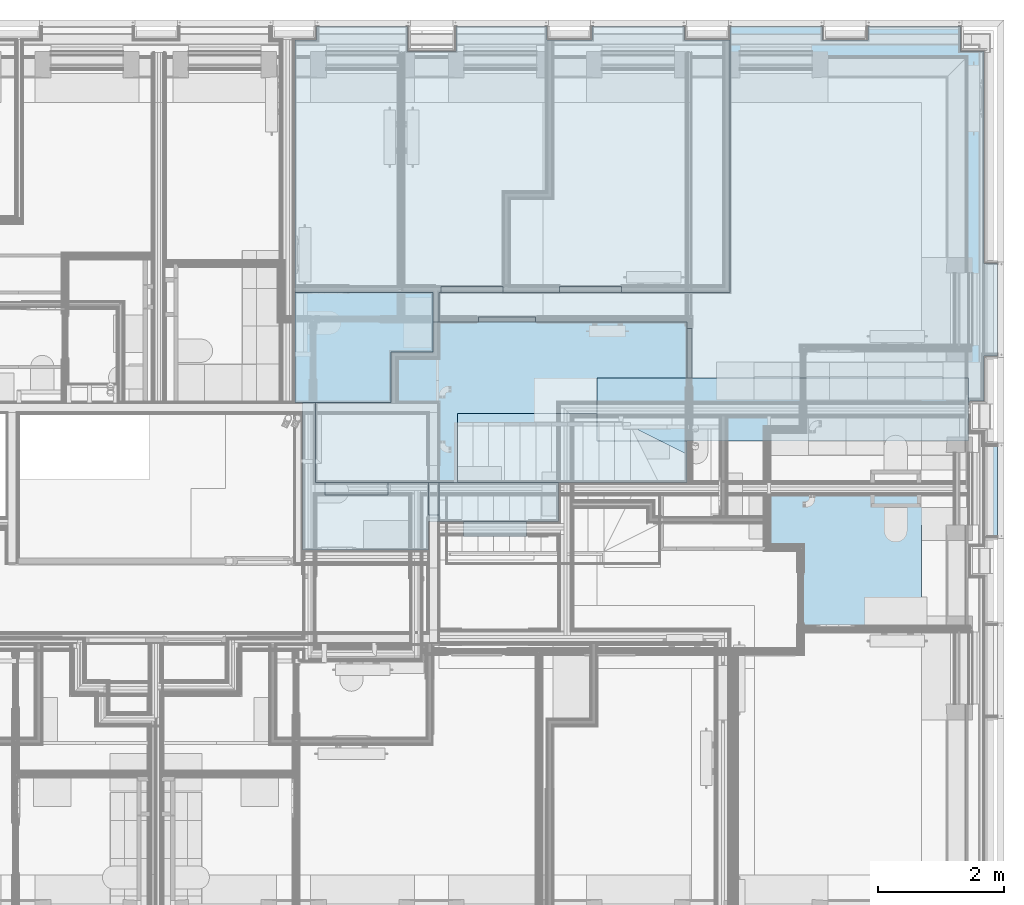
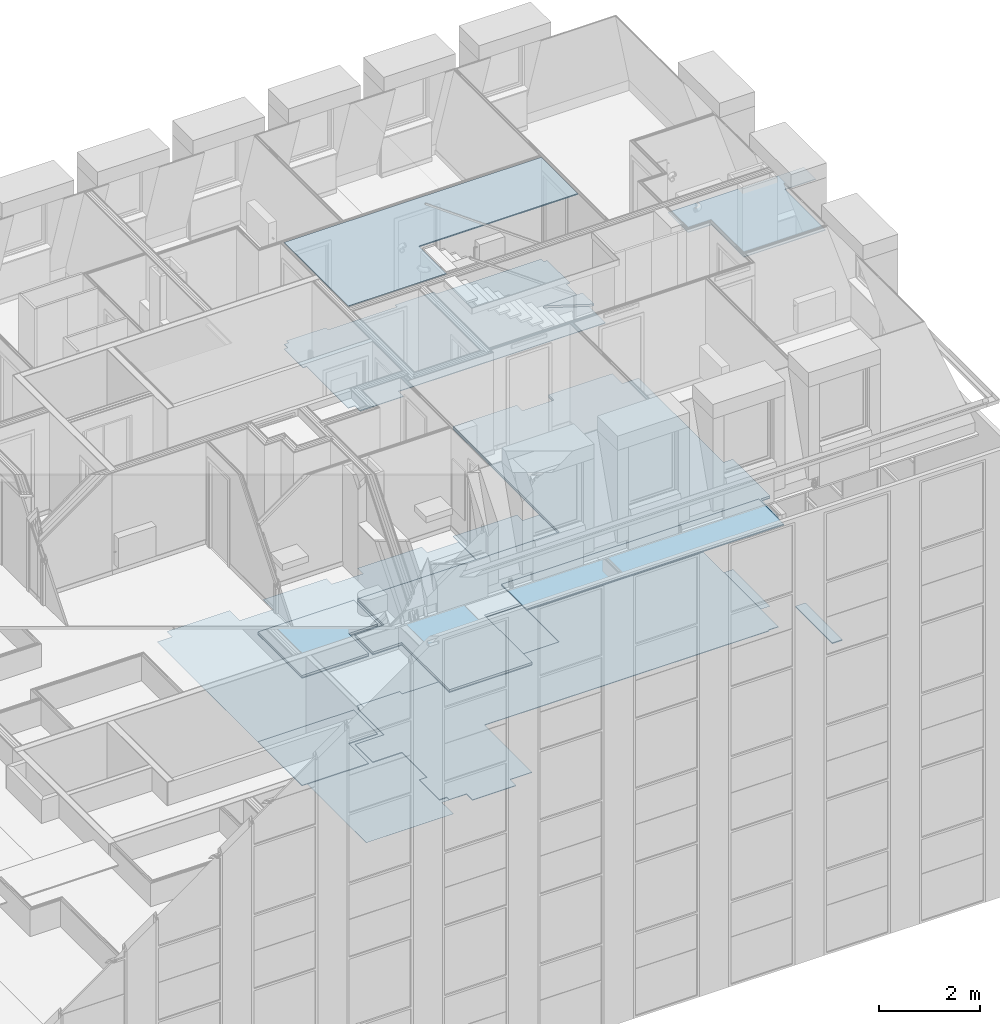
# One storey, part 79 of 169: 16 slabs.
"""IFC2X3 building model written with IfcOpenShell, lengths in metres."""

from ifc_helpers import new_model, entity, si_unit, converted_unit, derived_unit, money_unit, direction, frame, origin_with_axes, place, context, subcontext, project, spatial, faceted_brep, material, type_object, element, save


model = new_model("IFC2X3")

# Units and contexts
model_context = context("Model", 3, precision=1e-05, world=origin_with_axes(), true_north=direction((0.0, 1.0)))
body_context = subcontext(model_context, "Body", "Model", "MODEL_VIEW", scale=1.0)
ifc_project = project(units=[si_unit("LENGTHUNIT", "METRE"), si_unit("AREAUNIT", "SQUARE_METRE"), si_unit("VOLUMEUNIT", "CUBIC_METRE"), si_unit("ABSORBEDDOSEUNIT", "GRAY"), si_unit("AMOUNTOFSUBSTANCEUNIT", "MOLE"), si_unit("DOSEEQUIVALENTUNIT", "SIEVERT"), si_unit("ELECTRICCAPACITANCEUNIT", "FARAD"), si_unit("ELECTRICCHARGEUNIT", "COULOMB"), si_unit("ELECTRICCONDUCTANCEUNIT", "SIEMENS"), si_unit("ELECTRICCURRENTUNIT", "AMPERE"), si_unit("ELECTRICRESISTANCEUNIT", "OHM"), si_unit("ELECTRICVOLTAGEUNIT", "VOLT"), si_unit("ENERGYUNIT", "JOULE"), si_unit("FORCEUNIT", "NEWTON"), si_unit("FREQUENCYUNIT", "HERTZ"), si_unit("ILLUMINANCEUNIT", "LUX"), si_unit("INDUCTANCEUNIT", "HENRY"), si_unit("LUMINOUSFLUXUNIT", "LUMEN"), si_unit("LUMINOUSINTENSITYUNIT", "CANDELA"), si_unit("MAGNETICFLUXDENSITYUNIT", "TESLA"), si_unit("MAGNETICFLUXUNIT", "WEBER"), si_unit("MASSUNIT", "GRAM"), converted_unit("PLANEANGLEUNIT", "degree", entity("IfcReal", 0.0174532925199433), si_unit("PLANEANGLEUNIT", "RADIAN"), dimensions=[0, 0, 0, 0, 0, 0, 0]), si_unit("POWERUNIT", "WATT"), si_unit("PRESSUREUNIT", "PASCAL"), si_unit("RADIOACTIVITYUNIT", "BECQUEREL"), si_unit("SOLIDANGLEUNIT", "STERADIAN"), si_unit("THERMODYNAMICTEMPERATUREUNIT", "KELVIN"), si_unit("TIMEUNIT", "SECOND"), derived_unit("ACCELERATIONUNIT", [(si_unit("LENGTHUNIT", "METRE"), 1), (si_unit("TIMEUNIT", "SECOND"), -2)]), derived_unit("ANGULARVELOCITYUNIT", [(converted_unit("PLANEANGLEUNIT", "degree", entity("IfcReal", 0.0174532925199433), si_unit("PLANEANGLEUNIT", "RADIAN"), dimensions=[0, 0, 0, 0, 0, 0, 0]), 1), (si_unit("TIMEUNIT", "SECOND"), -1)]), derived_unit("CURVATUREUNIT", [(converted_unit("PLANEANGLEUNIT", "degree", entity("IfcReal", 0.0174532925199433), si_unit("PLANEANGLEUNIT", "RADIAN"), dimensions=[0, 0, 0, 0, 0, 0, 0]), 1), (si_unit("LENGTHUNIT", "METRE"), -1)]), derived_unit("DYNAMICVISCOSITYUNIT", [(si_unit("PRESSUREUNIT", "PASCAL"), 1), (si_unit("TIMEUNIT", "SECOND"), 1)]), derived_unit("HEATFLUXDENSITYUNIT", [(si_unit("POWERUNIT", "WATT"), 1), (si_unit("LENGTHUNIT", "METRE"), -2)]), derived_unit("HEATINGVALUEUNIT", [(si_unit("ENERGYUNIT", "JOULE"), 1), (si_unit("MASSUNIT", "GRAM"), -1)]), derived_unit("INTEGERCOUNTRATEUNIT", [(si_unit("TIMEUNIT", "SECOND"), -1)]), derived_unit("IONCONCENTRATIONUNIT", [(si_unit("MASSUNIT", "GRAM"), 1), (si_unit("VOLUMEUNIT", "CUBIC_METRE"), -1)]), derived_unit("ISOTHERMALMOISTURECAPACITYUNIT", [(si_unit("VOLUMEUNIT", "CUBIC_METRE"), 1), (si_unit("MASSUNIT", "GRAM"), -1)]), derived_unit("KINEMATICVISCOSITYUNIT", [(si_unit("AREAUNIT", "SQUARE_METRE"), 1), (si_unit("TIMEUNIT", "SECOND"), -1)]), derived_unit("LINEARFORCEUNIT", [(si_unit("FORCEUNIT", "NEWTON"), 1), (si_unit("LENGTHUNIT", "METRE"), -1)]), derived_unit("LINEARMOMENTUNIT", [(si_unit("FORCEUNIT", "NEWTON"), 1), (si_unit("LENGTHUNIT", "METRE"), -1)]), derived_unit("LINEARSTIFFNESSUNIT", [(si_unit("FORCEUNIT", "NEWTON"), 1), (si_unit("LENGTHUNIT", "METRE"), -1)]), derived_unit("LINEARVELOCITYUNIT", [(si_unit("LENGTHUNIT", "METRE"), 1), (si_unit("TIMEUNIT", "SECOND"), -1)]), derived_unit("LUMINOUSINTENSITYDISTRIBUTIONUNIT", [(si_unit("LUMINOUSINTENSITYUNIT", "CANDELA"), 1), (si_unit("LUMINOUSFLUXUNIT", "LUMEN"), -1)]), derived_unit("MASSDENSITYUNIT", [(si_unit("MASSUNIT", "GRAM"), 1), (si_unit("VOLUMEUNIT", "CUBIC_METRE"), -1)]), derived_unit("MASSFLOWRATEUNIT", [(si_unit("MASSUNIT", "GRAM"), 1), (si_unit("TIMEUNIT", "SECOND"), -1)]), derived_unit("MASSPERLENGTHUNIT", [(si_unit("MASSUNIT", "GRAM"), 1), (si_unit("LENGTHUNIT", "METRE"), -1)]), derived_unit("MODULUSOFELASTICITYUNIT", [(si_unit("FORCEUNIT", "NEWTON"), 1), (si_unit("AREAUNIT", "SQUARE_METRE"), -1)]), derived_unit("MODULUSOFLINEARSUBGRADEREACTIONUNIT", [(si_unit("FORCEUNIT", "NEWTON"), 1), (si_unit("LENGTHUNIT", "METRE"), -2)]), derived_unit("MODULUSOFROTATIONALSUBGRADEREACTIONUNIT", [(si_unit("FORCEUNIT", "NEWTON"), 1), (si_unit("LENGTHUNIT", "METRE"), 1)]), derived_unit("MODULUSOFSUBGRADEREACTIONUNIT", [(si_unit("FORCEUNIT", "NEWTON"), 1), (si_unit("VOLUMEUNIT", "CUBIC_METRE"), -1)]), derived_unit("MOISTUREDIFFUSIVITYUNIT", [(si_unit("VOLUMEUNIT", "CUBIC_METRE"), 1), (si_unit("TIMEUNIT", "SECOND"), -1)]), derived_unit("MOLECULARWEIGHTUNIT", [(si_unit("MASSUNIT", "GRAM"), 1), (si_unit("AMOUNTOFSUBSTANCEUNIT", "MOLE"), -1)]), derived_unit("PLANARFORCEUNIT", [(si_unit("FORCEUNIT", "NEWTON"), 1), (si_unit("LENGTHUNIT", "METRE"), -2)]), derived_unit("ROTATIONALFREQUENCYUNIT", [(si_unit("TIMEUNIT", "SECOND"), -1)]), derived_unit("ROTATIONALMASSUNIT", [(si_unit("MASSUNIT", "GRAM"), 1), (si_unit("LENGTHUNIT", "METRE"), 2)]), derived_unit("ROTATIONALSTIFFNESSUNIT", [(si_unit("FORCEUNIT", "NEWTON"), 1), (si_unit("LENGTHUNIT", "METRE"), 1), (converted_unit("PLANEANGLEUNIT", "degree", entity("IfcReal", 0.0174532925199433), si_unit("PLANEANGLEUNIT", "RADIAN"), dimensions=[0, 0, 0, 0, 0, 0, 0]), -1)]), derived_unit("SECTIONAREAINTEGRALUNIT", [(si_unit("LENGTHUNIT", "METRE"), 5)]), derived_unit("SECTIONMODULUSUNIT", [(si_unit("LENGTHUNIT", "METRE"), 3)]), derived_unit("SHEARMODULUSUNIT", [(si_unit("FORCEUNIT", "NEWTON"), 1), (si_unit("AREAUNIT", "SQUARE_METRE"), -1)]), derived_unit("SOUNDPOWERUNIT", [(si_unit("ENERGYUNIT", "JOULE"), 1), (si_unit("TIMEUNIT", "SECOND"), -1)]), derived_unit("SPECIFICHEATCAPACITYUNIT", [(si_unit("FORCEUNIT", "NEWTON"), 1), (si_unit("MASSUNIT", "GRAM"), -1), (si_unit("THERMODYNAMICTEMPERATUREUNIT", "KELVIN"), -1)]), derived_unit("TEMPERATUREGRADIENTUNIT", [(si_unit("THERMODYNAMICTEMPERATUREUNIT", "KELVIN"), 1), (si_unit("LENGTHUNIT", "METRE"), -1)]), derived_unit("THERMALADMITTANCEUNIT", [(si_unit("POWERUNIT", "WATT"), 1), (si_unit("AREAUNIT", "SQUARE_METRE"), -1), (si_unit("THERMODYNAMICTEMPERATUREUNIT", "KELVIN"), -1)]), derived_unit("THERMALCONDUCTANCEUNIT", [(si_unit("POWERUNIT", "WATT"), 1), (si_unit("LENGTHUNIT", "METRE"), -1), (si_unit("THERMODYNAMICTEMPERATUREUNIT", "KELVIN"), -1)]), derived_unit("THERMALEXPANSIONCOEFFICIENTUNIT", [(si_unit("THERMODYNAMICTEMPERATUREUNIT", "KELVIN"), -1)]), derived_unit("THERMALRESISTANCEUNIT", [(si_unit("AREAUNIT", "SQUARE_METRE"), 1), (si_unit("POWERUNIT", "WATT"), -1)]), derived_unit("THERMALTRANSMITTANCEUNIT", [(si_unit("POWERUNIT", "WATT"), 1), (si_unit("AREAUNIT", "SQUARE_METRE"), -1), (si_unit("THERMODYNAMICTEMPERATUREUNIT", "KELVIN"), -1)]), derived_unit("TORQUEUNIT", [(si_unit("FORCEUNIT", "NEWTON"), 1), (si_unit("LENGTHUNIT", "METRE"), 1)]), derived_unit("VAPORPERMEABILITYUNIT", [(si_unit("MASSUNIT", "GRAM"), 1), (si_unit("TIMEUNIT", "SECOND"), -1)]), derived_unit("VOLUMETRICFLOWRATEUNIT", [(si_unit("VOLUMEUNIT", "CUBIC_METRE"), 1), (si_unit("TIMEUNIT", "SECOND"), -1)]), derived_unit("WARPINGCONSTANTUNIT", [(si_unit("LENGTHUNIT", "METRE"), 6)]), derived_unit("WARPINGMOMENTUNIT", [(si_unit("FORCEUNIT", "NEWTON"), 1), (si_unit("LENGTHUNIT", "METRE"), 2)]), money_unit("GBP")], contexts=[model_context])

# Site, building, storey
site_placement = place(None, origin_with_axes())
site = spatial("IfcSite", under=ifc_project, at=site_placement, Name="Site", CompositionType="ELEMENT")
building_placement = place(site_placement, origin_with_axes())
building = spatial("IfcBuilding", under=site, at=building_placement, Name="Building01", CompositionType="ELEMENT")
storey_placement = place(building_placement, frame((0.0, 0.0, 5.15), z_axis=(0.0, 0.0, 1.0), x_axis=(1.0, 0.0, 0.0)))
storey = spatial("IfcBuildingStorey", under=building, at=storey_placement, Name="1F", CompositionType="ELEMENT", Elevation=5.15)

# Slabs
ifc_material_1 = material(Name="A_BSUK_ExpandedPolystyreneBoards")
slab_type_1 = type_object("IfcSlabType", Name="A-FloorsSlabs A_BSUK_Slabs", PredefinedType="FLOOR")
placement = place(storey_placement, frame((0.0, 0.0, -5.15), z_axis=(0.0, 0.0, 1.0), x_axis=(1.0, 0.0, 0.0)))
element("IfcSlab", 1, at=placement, inside=storey, type_object=slab_type_1, material=ifc_material_1, Name="A-FloorsSlabs A_BSUK_Slabs", ObjectType="CompoundSlabLeaf", context=body_context, shape_type="Brep", body=[
    faceted_brep([(15.83, 8.82, 5.15), (15.83, 8.82, 5.153), (15.708132, 8.82, 5.153), (15.708132, 8.82, 5.15), (15.83, 8.65, 5.15), (15.83, 8.65, 5.153), (15.83, 6.475, 5.15), (15.83, 6.475, 5.153), (17.83, 6.475, 5.15), (17.83, 6.475, 5.153), (17.83, 6.93, 5.15), (17.83, 6.93, 5.153), (18.0, 6.93, 5.15), (18.0, 6.93, 5.153), (18.392, 6.93, 5.15), (18.392, 6.93, 5.153), (18.392, 6.69, 5.15), (18.392, 6.69, 5.153), (19.392, 6.69, 5.15), (19.392, 6.69, 5.153), (19.392, 6.93, 5.15), (19.392, 6.93, 5.153), (19.897661, 6.93, 5.15), (19.897661, 6.93, 5.153), (19.897661, 8.82, 5.15), (19.897661, 8.82, 5.153), (26.432, 8.82, 5.15), (26.432, 8.82, 5.153), (26.432, 8.848, 5.15), (26.432, 8.848, 5.153), (26.662, 8.848, 5.15), (26.662, 8.848, 5.153), (26.662, 9.56218, 5.15), (26.662, 9.56218, 5.153), (26.88, 9.56218, 5.15), (26.88, 9.56218, 5.153), (26.88, 11.03218, 5.15), (26.88, 11.03218, 5.153), (26.662, 11.03218, 5.15), (26.662, 11.03218, 5.153), (26.662, 14.402, 5.15), (26.662, 14.402, 5.153), (26.285, 14.402, 5.15), (26.285, 14.402, 5.153), (26.285, 14.8, 5.15), (26.285, 14.8, 5.153), (24.815, 14.8, 5.15), (24.815, 14.8, 5.153), (24.815, 14.582, 5.15), (24.815, 14.582, 5.153), (24.095, 14.582, 5.15), (24.095, 14.582, 5.153), (24.095, 14.8, 5.15), (24.095, 14.8, 5.153), (22.625, 14.8, 5.15), (22.625, 14.8, 5.153), (22.625, 14.582, 5.15), (22.625, 14.582, 5.153), (21.905, 14.582, 5.15), (21.905, 14.582, 5.153), (21.905, 14.8, 5.15), (21.905, 14.8, 5.153), (20.435, 14.8, 5.15), (20.435, 14.8, 5.153), (20.435, 14.582, 5.15), (20.435, 14.582, 5.153), (19.715, 14.582, 5.15), (19.715, 14.582, 5.153), (19.715, 14.8, 5.15), (19.715, 14.8, 5.153), (18.268, 14.8, 5.15), (18.268, 14.8, 5.153), (18.268, 14.402, 5.15), (18.268, 14.402, 5.153), (17.502, 14.402, 5.15), (17.502, 14.402, 5.153), (17.502, 14.8, 5.15), (17.502, 14.8, 5.153), (16.055, 14.8, 5.15), (16.055, 14.8, 5.153), (16.055, 14.582, 5.15), (16.055, 14.582, 5.153), (15.708132, 14.582, 5.15), (15.708132, 14.582, 5.153)], [[[0, 1, 2, 3]], [[4, 5, 1, 0]], [[6, 7, 5, 4]], [[8, 9, 7, 6]], [[10, 11, 9, 8]], [[12, 13, 11, 10]], [[14, 15, 13, 12]], [[16, 17, 15, 14]], [[18, 19, 17, 16]], [[20, 21, 19, 18]], [[22, 23, 21, 20]], [[24, 25, 23, 22]], [[26, 27, 25, 24]], [[28, 29, 27, 26]], [[30, 31, 29, 28]], [[32, 33, 31, 30]], [[34, 35, 33, 32]], [[36, 37, 35, 34]], [[38, 39, 37, 36]], [[40, 41, 39, 38]], [[42, 43, 41, 40]], [[44, 45, 43, 42]], [[46, 47, 45, 44]], [[48, 49, 47, 46]], [[50, 51, 49, 48]], [[52, 53, 51, 50]], [[54, 55, 53, 52]], [[56, 57, 55, 54]], [[58, 59, 57, 56]], [[60, 61, 59, 58]], [[62, 63, 61, 60]], [[64, 65, 63, 62]], [[66, 67, 65, 64]], [[68, 69, 67, 66]], [[70, 71, 69, 68]], [[72, 73, 71, 70]], [[74, 75, 73, 72]], [[76, 77, 75, 74]], [[78, 79, 77, 76]], [[80, 81, 79, 78]], [[82, 83, 81, 80]], [[3, 2, 83, 82]], [[1, 5, 7, 9, 11, 13, 15, 17, 19, 21, 23, 25, 27, 29, 31, 33, 35, 37, 39, 41, 43, 45, 47, 49, 51, 53, 55, 57, 59, 61, 63, 65, 67, 69, 71, 73, 75, 77, 79, 81, 83, 2]], [[3, 82, 80, 78, 76, 74, 72, 70, 68, 66, 64, 62, 60, 58, 56, 54, 52, 50, 48, 46, 44, 42, 40, 38, 36, 34, 32, 30, 28, 26, 24, 22, 20, 18, 16, 14, 12, 10, 8, 6, 4, 0]]]),
])
ifc_material_2 = material(Name="A_BSUK_Parquet_Floor")
element("IfcSlab", 2, at=placement, inside=storey, type_object=slab_type_1, material=ifc_material_2, Name="A-FloorsSlabs A_BSUK_Slabs", ObjectType="CompoundSlabLeaf", context=body_context, shape_type="Brep", body=[
    faceted_brep([(18.392, 6.69, 5.153), (18.392, 6.69, 5.165), (18.392, 6.93, 5.165), (18.392, 6.93, 5.153), (19.392, 6.69, 5.153), (19.392, 6.69, 5.165), (19.392, 6.93, 5.153), (19.392, 6.93, 5.165), (19.897661, 6.93, 5.153), (19.897661, 6.93, 5.165), (19.897661, 8.82, 5.153), (19.897661, 8.82, 5.165), (26.432, 8.82, 5.153), (26.432, 8.82, 5.165), (26.432, 8.848, 5.153), (26.432, 8.848, 5.165), (26.662, 8.848, 5.153), (26.662, 8.848, 5.165), (26.662, 9.56218, 5.153), (26.662, 9.56218, 5.165), (26.662, 11.03218, 5.153), (26.662, 11.03218, 5.165), (26.662, 14.402, 5.153), (26.662, 14.402, 5.165), (26.285, 14.402, 5.153), (26.285, 14.402, 5.165), (26.285, 14.8, 5.153), (26.285, 14.8, 5.165), (24.815, 14.8, 5.153), (24.815, 14.8, 5.165), (24.815, 14.582, 5.153), (24.815, 14.582, 5.165), (24.095, 14.582, 5.153), (24.095, 14.582, 5.165), (24.095, 14.8, 5.153), (24.095, 14.8, 5.165), (22.625, 14.8, 5.153), (22.625, 14.8, 5.165), (22.625, 10.57, 5.153), (22.625, 10.57, 5.165), (20.902284, 10.57, 5.153), (20.902284, 10.57, 5.165), (20.902284, 10.665, 5.153), (20.902284, 10.665, 5.165), (19.918284, 10.665, 5.153), (19.918284, 10.665, 5.165), (19.918284, 10.57, 5.153), (19.918284, 10.57, 5.165), (19.017398, 10.57, 5.153), (19.017398, 10.57, 5.165), (19.017398, 10.665, 5.153), (19.017398, 10.665, 5.165), (18.033398, 10.665, 5.153), (18.033398, 10.665, 5.165), (18.033398, 10.57, 5.153), (18.033398, 10.57, 5.165), (18.0, 10.57, 5.153), (18.0, 10.57, 5.165), (18.0, 9.967396, 5.153), (18.0, 9.967396, 5.165), (18.0, 9.525, 5.153), (18.0, 9.525, 5.165), (17.333132, 9.525, 5.153), (17.333132, 9.525, 5.165), (17.333132, 8.82, 5.153), (17.333132, 8.82, 5.165), (17.905, 8.82, 5.153), (17.905, 8.82, 5.165), (18.0, 8.82, 5.153), (18.0, 8.82, 5.165), (18.0, 7.82088, 5.153), (18.0, 7.82088, 5.165), (17.83, 7.82088, 5.153), (17.83, 7.82088, 5.165), (17.83, 7.02888, 5.153), (17.83, 7.02888, 5.165), (18.0, 7.02888, 5.153), (18.0, 7.02888, 5.165), (18.0, 6.93, 5.153), (18.0, 6.93, 5.165)], [[[0, 1, 2, 3]], [[4, 5, 1, 0]], [[6, 7, 5, 4]], [[8, 9, 7, 6]], [[10, 11, 9, 8]], [[12, 13, 11, 10]], [[14, 15, 13, 12]], [[16, 17, 15, 14]], [[18, 19, 17, 16]], [[20, 21, 19, 18]], [[22, 23, 21, 20]], [[24, 25, 23, 22]], [[26, 27, 25, 24]], [[28, 29, 27, 26]], [[30, 31, 29, 28]], [[32, 33, 31, 30]], [[34, 35, 33, 32]], [[36, 37, 35, 34]], [[38, 39, 37, 36]], [[40, 41, 39, 38]], [[42, 43, 41, 40]], [[44, 45, 43, 42]], [[46, 47, 45, 44]], [[48, 49, 47, 46]], [[50, 51, 49, 48]], [[52, 53, 51, 50]], [[54, 55, 53, 52]], [[56, 57, 55, 54]], [[58, 59, 57, 56]], [[60, 61, 59, 58]], [[62, 63, 61, 60]], [[64, 65, 63, 62]], [[66, 67, 65, 64]], [[68, 69, 67, 66]], [[70, 71, 69, 68]], [[72, 73, 71, 70]], [[74, 75, 73, 72]], [[76, 77, 75, 74]], [[78, 79, 77, 76]], [[3, 2, 79, 78]], [[1, 5, 7, 9, 11, 13, 15, 17, 19, 21, 23, 25, 27, 29, 31, 33, 35, 37, 39, 41, 43, 45, 47, 49, 51, 53, 55, 57, 59, 61, 63, 65, 67, 69, 71, 73, 75, 77, 79, 2]], [[3, 78, 76, 74, 72, 70, 68, 66, 64, 62, 60, 58, 56, 54, 52, 50, 48, 46, 44, 42, 40, 38, 36, 34, 32, 30, 28, 26, 24, 22, 20, 18, 16, 14, 12, 10, 8, 6, 4, 0]]]),
])
ifc_material_3 = material(Name="A_BSUK_CeilingSoffitFinishes_Suspended")
element("IfcSlab", 3, at=placement, inside=storey, type_object=slab_type_1, material=ifc_material_3, Name="A-FloorsSlabs A_BSUK_Slabs", ObjectType="CompoundSlabLeaf", context=body_context, shape_type="Brep", body=[
    faceted_brep([(18.395, 6.93, 7.765), (18.395, 6.93, 7.78), (18.0, 6.93, 7.78), (18.0, 6.93, 7.765), (19.395, 6.93, 7.765), (19.395, 6.93, 7.78), (19.897661, 6.93, 7.765), (19.897661, 6.93, 7.78), (19.897661, 8.82, 7.765), (19.897661, 8.82, 7.78), (26.432, 8.82, 7.765), (26.432, 8.82, 7.78), (26.432, 8.848, 7.765), (26.432, 8.848, 7.78), (26.662, 8.848, 7.765), (26.662, 8.848, 7.78), (26.662, 9.56218, 7.765), (26.662, 9.56218, 7.78), (26.88, 9.56218, 7.765), (26.88, 9.56218, 7.78), (26.88, 11.03218, 7.765), (26.88, 11.03218, 7.78), (26.662, 11.03218, 7.765), (26.662, 11.03218, 7.78), (26.662, 14.402, 7.765), (26.662, 14.402, 7.78), (26.285, 14.402, 7.765), (26.285, 14.402, 7.78), (26.285, 14.8, 7.765), (26.285, 14.8, 7.78), (24.815, 14.8, 7.765), (24.815, 14.8, 7.78), (24.815, 14.582, 7.765), (24.815, 14.582, 7.78), (24.095, 14.582, 7.765), (24.095, 14.582, 7.78), (24.095, 14.8, 7.765), (24.095, 14.8, 7.78), (22.625, 14.8, 7.765), (22.625, 14.8, 7.78), (22.625, 10.57, 7.765), (22.625, 10.57, 7.78), (19.891284, 10.57, 7.765), (19.891284, 10.57, 7.78), (19.044398, 10.57, 7.765), (19.044398, 10.57, 7.78), (18.0, 10.57, 7.765), (18.0, 10.57, 7.78), (18.0, 9.525, 7.765), (18.0, 9.525, 7.78), (17.333132, 9.525, 7.765), (17.333132, 9.525, 7.78), (17.333132, 8.82, 7.765), (17.333132, 8.82, 7.78), (18.0, 8.82, 7.765), (18.0, 8.82, 7.78), (18.0, 7.82088, 7.765), (18.0, 7.82088, 7.78), (18.0, 7.02888, 7.765), (18.0, 7.02888, 7.78)], [[[0, 1, 2, 3]], [[4, 5, 1, 0]], [[6, 7, 5, 4]], [[8, 9, 7, 6]], [[10, 11, 9, 8]], [[12, 13, 11, 10]], [[14, 15, 13, 12]], [[16, 17, 15, 14]], [[18, 19, 17, 16]], [[20, 21, 19, 18]], [[22, 23, 21, 20]], [[24, 25, 23, 22]], [[26, 27, 25, 24]], [[28, 29, 27, 26]], [[30, 31, 29, 28]], [[32, 33, 31, 30]], [[34, 35, 33, 32]], [[36, 37, 35, 34]], [[38, 39, 37, 36]], [[40, 41, 39, 38]], [[42, 43, 41, 40]], [[44, 45, 43, 42]], [[46, 47, 45, 44]], [[48, 49, 47, 46]], [[50, 51, 49, 48]], [[52, 53, 51, 50]], [[54, 55, 53, 52]], [[56, 57, 55, 54]], [[58, 59, 57, 56]], [[3, 2, 59, 58]], [[1, 5, 7, 9, 11, 13, 15, 17, 19, 21, 23, 25, 27, 29, 31, 33, 35, 37, 39, 41, 43, 45, 47, 49, 51, 53, 55, 57, 59, 2]], [[3, 58, 56, 54, 52, 50, 48, 46, 44, 42, 40, 38, 36, 34, 32, 30, 28, 26, 24, 22, 20, 18, 16, 14, 12, 10, 8, 6, 4, 0]]]),
])
element("IfcSlab", 4, at=placement, inside=storey, type_object=slab_type_1, material=ifc_material_3, Name="A-FloorsSlabs A_BSUK_Slabs", ObjectType="CompoundSlabLeaf", context=body_context, shape_type="Brep", body=[
    faceted_brep([(15.708132, 10.57, 7.765), (15.708132, 10.57, 7.78), (17.905, 10.57, 7.78), (17.905, 10.57, 7.765), (15.708132, 8.82, 7.765), (15.708132, 8.82, 7.78), (17.238132, 8.82, 7.765), (17.238132, 8.82, 7.78), (17.238132, 9.62, 7.765), (17.238132, 9.62, 7.78), (17.905, 9.62, 7.765), (17.905, 9.62, 7.78)], [[[0, 1, 2, 3]], [[4, 5, 1, 0]], [[6, 7, 5, 4]], [[8, 9, 7, 6]], [[10, 11, 9, 8]], [[3, 2, 11, 10]], [[1, 5, 7, 9, 11, 2]], [[3, 10, 8, 6, 4, 0]]]),
])
ifc_material_4 = material(Name="A_BSUK_Ceramic_FloorTiles")
element("IfcSlab", 5, at=placement, inside=storey, type_object=slab_type_1, material=ifc_material_4, Name="A-FloorsSlabs A_BSUK_Slabs", ObjectType="CompoundSlabLeaf", context=body_context, shape_type="Brep", body=[
    faceted_brep([(15.708132, 8.82, 5.153), (15.708132, 8.82, 5.165), (15.708132, 10.57, 5.165), (15.708132, 10.57, 5.153), (17.238132, 8.82, 5.153), (17.238132, 8.82, 5.165), (17.238132, 9.62, 5.153), (17.238132, 9.62, 5.165), (17.905, 9.62, 5.153), (17.905, 9.62, 5.165), (17.905, 10.57, 5.153), (17.905, 10.57, 5.165)], [[[0, 1, 2, 3]], [[4, 5, 1, 0]], [[6, 7, 5, 4]], [[8, 9, 7, 6]], [[10, 11, 9, 8]], [[3, 2, 11, 10]], [[1, 5, 7, 9, 11, 2]], [[3, 10, 8, 6, 4, 0]]]),
])
ifc_material_5 = material(Name="A_BSUK_Timber_Miscellaneous")
element("IfcSlab", 6, at=placement, inside=storey, type_object=slab_type_1, material=ifc_material_5, Name="A-FloorsSlabs A_BSUK_Slabs", ObjectType="CompoundSlabLeaf", context=body_context, shape_type="Brep", body=[
    faceted_brep([(26.88, 6.682326, 6.065), (26.88, 6.682326, 6.09), (26.646998, 6.682326, 6.09), (26.646998, 6.682326, 6.065), (26.88, 8.152326, 6.065), (26.88, 8.152326, 6.09), (26.647, 8.152326, 6.065), (26.647, 8.152326, 6.09)], [[[0, 1, 2, 3]], [[4, 5, 1, 0]], [[6, 7, 5, 4]], [[3, 2, 7, 6]], [[1, 5, 7, 2]], [[3, 6, 4, 0]]]),
])
element("IfcSlab", 7, at=placement, inside=storey, type_object=slab_type_1, material=ifc_material_3, Name="A-FloorsSlabs A_BSUK_Slabs", ObjectType="CompoundSlabLeaf", context=body_context, shape_type="Brep", body=[
    faceted_brep([(20.510161, 8.2075, 8.115), (20.510161, 8.2075, 8.13), (20.510161, 9.2075, 8.13), (20.510161, 9.2075, 8.115), (26.417, 8.2075, 8.115), (26.417, 8.2075, 8.13), (26.417, 9.2075, 8.115), (26.417, 9.2075, 8.13)], [[[0, 1, 2, 3]], [[4, 5, 1, 0]], [[6, 7, 5, 4]], [[3, 2, 7, 6]], [[1, 5, 7, 2]], [[3, 6, 4, 0]]]),
])
element("IfcSlab", 8, at=placement, inside=storey, type_object=slab_type_1, material=ifc_material_3, Name="A-FloorsSlabs A_BSUK_Slabs", ObjectType="CompoundSlabLeaf", context=body_context, shape_type="Brep", body=[
    faceted_brep([(20.510161, 8.2075, 8.1), (20.510161, 8.2075, 8.115), (20.510161, 9.2075, 8.115), (20.510161, 9.2075, 8.1), (26.417, 8.2075, 8.1), (26.417, 8.2075, 8.115), (26.417, 9.2075, 8.1), (26.417, 9.2075, 8.115)], [[[0, 1, 2, 3]], [[4, 5, 1, 0]], [[6, 7, 5, 4]], [[3, 2, 7, 6]], [[1, 5, 7, 2]], [[3, 6, 4, 0]]]),
])
element("IfcSlab", 9, at=placement, inside=storey, type_object=slab_type_1, material=ifc_material_3, Name="A-FloorsSlabs A_BSUK_Slabs", ObjectType="CompoundSlabLeaf", context=body_context, shape_type="Brep", body=[
    faceted_brep([(16.03844, 7.549915, 17.423), (16.03844, 7.549915, 17.438), (16.03844, 10.099939, 17.438), (16.03844, 10.099939, 17.423), (18.289976, 7.549915, 17.423), (18.289976, 7.549915, 17.438), (18.289976, 8.647427, 17.423), (18.289976, 8.647427, 17.438), (21.268457, 8.647427, 17.423), (21.268457, 8.647427, 17.438), (21.939976, 8.647427, 17.423), (21.939976, 8.647427, 17.438), (21.939976, 10.099939, 17.423), (21.939976, 10.099939, 17.438)], [[[0, 1, 2, 3]], [[4, 5, 1, 0]], [[6, 7, 5, 4]], [[8, 9, 7, 6]], [[10, 11, 9, 8]], [[12, 13, 11, 10]], [[3, 2, 13, 12]], [[1, 5, 7, 9, 11, 13, 2]], [[3, 12, 10, 8, 6, 4, 0]]]),
])
element("IfcSlab", 10, at=placement, inside=storey, type_object=slab_type_1, material=ifc_material_1, Name="A-FloorsSlabs A_BSUK_Slabs", ObjectType="CompoundSlabLeaf", context=body_context, shape_type="Brep", body=[
    faceted_brep([(16.03844, 9.961939, 14.965), (16.03844, 9.961939, 14.968), (16.03844, 10.099939, 14.968), (16.03844, 10.099939, 14.965), (15.95844, 9.961939, 14.965), (15.95844, 9.961939, 14.968), (15.95844, 9.211939, 14.965), (15.95844, 9.211939, 14.968), (16.03844, 9.211939, 14.965), (16.03844, 9.211939, 14.968), (16.03844, 7.549915, 14.965), (16.03844, 7.549915, 14.968), (16.18844, 7.549915, 14.965), (16.18844, 7.549915, 14.968), (16.18844, 7.349915, 14.965), (16.18844, 7.349915, 14.968), (17.18844, 7.349915, 14.965), (17.18844, 7.349915, 14.968), (17.18844, 7.549915, 14.965), (17.18844, 7.549915, 14.968), (18.289976, 7.549915, 14.965), (18.289976, 7.549915, 14.968), (21.268457, 7.549915, 14.965), (21.268457, 7.549915, 14.968), (21.939976, 7.549915, 14.965), (21.939976, 7.549915, 14.968), (21.939976, 9.099939, 14.965), (21.939976, 9.099939, 14.968), (22.019976, 9.099939, 14.965), (22.019976, 9.099939, 14.968), (22.019976, 9.999939, 14.965), (22.019976, 9.999939, 14.968), (21.939976, 9.999939, 14.965), (21.939976, 9.999939, 14.968), (21.939976, 10.099939, 14.965), (21.939976, 10.099939, 14.968), (20.749976, 10.099939, 14.965), (20.749976, 10.099939, 14.968), (19.849976, 10.099939, 14.965), (19.849976, 10.099939, 14.968), (19.529976, 10.099939, 14.965), (19.529976, 10.099939, 14.968), (19.529976, 10.179939, 14.965), (19.529976, 10.179939, 14.968), (18.629976, 10.179939, 14.965), (18.629976, 10.179939, 14.968), (18.629976, 10.099939, 14.965), (18.629976, 10.099939, 14.968), (17.03844, 10.099939, 14.965), (17.03844, 10.099939, 14.968), (17.03844, 10.179939, 14.965), (17.03844, 10.179939, 14.968), (16.13844, 10.179939, 14.965), (16.13844, 10.179939, 14.968), (16.13844, 10.099939, 14.965), (16.13844, 10.099939, 14.968)], [[[0, 1, 2, 3]], [[4, 5, 1, 0]], [[6, 7, 5, 4]], [[8, 9, 7, 6]], [[10, 11, 9, 8]], [[12, 13, 11, 10]], [[14, 15, 13, 12]], [[16, 17, 15, 14]], [[18, 19, 17, 16]], [[20, 21, 19, 18]], [[22, 23, 21, 20]], [[24, 25, 23, 22]], [[26, 27, 25, 24]], [[28, 29, 27, 26]], [[30, 31, 29, 28]], [[32, 33, 31, 30]], [[34, 35, 33, 32]], [[36, 37, 35, 34]], [[38, 39, 37, 36]], [[40, 41, 39, 38]], [[42, 43, 41, 40]], [[44, 45, 43, 42]], [[46, 47, 45, 44]], [[48, 49, 47, 46]], [[50, 51, 49, 48]], [[52, 53, 51, 50]], [[54, 55, 53, 52]], [[3, 2, 55, 54]], [[1, 5, 7, 9, 11, 13, 15, 17, 19, 21, 23, 25, 27, 29, 31, 33, 35, 37, 39, 41, 43, 45, 47, 49, 51, 53, 55, 2]], [[3, 54, 52, 50, 48, 46, 44, 42, 40, 38, 36, 34, 32, 30, 28, 26, 24, 22, 20, 18, 16, 14, 12, 10, 8, 6, 4, 0]]]),
])
element("IfcSlab", 11, at=placement, inside=storey, type_object=slab_type_1, material=ifc_material_3, Name="A-FloorsSlabs A_BSUK_Slabs", ObjectType="CompoundSlabLeaf", context=body_context, shape_type="Brep", body=[
    faceted_brep([(16.03844, 7.549915, 17.438), (16.03844, 7.549915, 17.453), (16.03844, 10.099939, 17.453), (16.03844, 10.099939, 17.438), (18.289976, 7.549915, 17.438), (18.289976, 7.549915, 17.453), (18.289976, 8.647427, 17.438), (18.289976, 8.647427, 17.453), (21.268457, 8.647427, 17.438), (21.268457, 8.647427, 17.453), (21.939976, 8.647427, 17.438), (21.939976, 8.647427, 17.453), (21.939976, 10.099939, 17.438), (21.939976, 10.099939, 17.453)], [[[0, 1, 2, 3]], [[4, 5, 1, 0]], [[6, 7, 5, 4]], [[8, 9, 7, 6]], [[10, 11, 9, 8]], [[12, 13, 11, 10]], [[3, 2, 13, 12]], [[1, 5, 7, 9, 11, 13, 2]], [[3, 12, 10, 8, 6, 4, 0]]]),
])
ifc_material_6 = material(Name="A_BSUK_Slabs")
element("IfcSlab", 12, at=placement, inside=storey, type_object=slab_type_1, material=ifc_material_6, Name="A-FloorsSlabs A_BSUK_Slabs", ObjectType="CompoundSlabLeaf", context=body_context, shape_type="Brep", body=[
    faceted_brep([(21.939976, 7.999915, 15.11), (21.939976, 7.999915, 15.16), (21.039976, 8.449915, 15.16), (21.039976, 8.449915, 15.11), (21.939976, 8.449915, 15.11), (21.939976, 8.449915, 15.16)], [[[0, 1, 2, 3]], [[4, 5, 1, 0]], [[3, 2, 5, 4]], [[1, 5, 2]], [[3, 4, 0]]]),
])
element("IfcSlab", 13, at=placement, inside=storey, type_object=slab_type_1, material=ifc_material_3, Name="A-FloorsSlabs A_BSUK_Slabs", ObjectType="CompoundSlabLeaf", context=body_context, shape_type="Brep", body=[
    faceted_brep([(23.258821, 7.349915, 17.308), (23.258821, 7.349915, 17.323), (26.380061, 7.349915, 17.323), (26.380061, 7.349915, 17.308), (23.258821, 6.550085, 17.308), (23.258821, 6.550085, 17.323), (23.79, 6.550085, 17.308), (23.79, 6.550085, 17.323), (23.79, 5.254915, 17.308), (23.79, 5.254915, 17.323), (25.667598, 5.254915, 17.308), (25.667598, 5.254915, 17.323), (25.667598, 6.874964, 17.308), (25.667598, 6.874964, 17.323), (26.380061, 6.874964, 17.308), (26.380061, 6.874964, 17.323)], [[[0, 1, 2, 3]], [[4, 5, 1, 0]], [[6, 7, 5, 4]], [[8, 9, 7, 6]], [[10, 11, 9, 8]], [[12, 13, 11, 10]], [[14, 15, 13, 12]], [[3, 2, 15, 14]], [[1, 5, 7, 9, 11, 13, 15, 2]], [[3, 14, 12, 10, 8, 6, 4, 0]]]),
])
slab_type_2 = type_object("IfcSlabType", Name="A-FloorsSlabs A_BSUK_ExpandedPolystyreneBoards", PredefinedType="FLOOR")
element("IfcSlab", 14, at=placement, inside=storey, type_object=slab_type_2, material=ifc_material_1, Name="A-FloorsSlabs A_BSUK_ExpandedPolystyreneBoards", ObjectType="CompoundSlabLeaf", context=body_context, shape_type="Brep", body=[
    faceted_brep([(18.395, 6.93, 7.78), (18.395, 6.93, 7.83), (18.0, 6.93, 7.83), (18.0, 6.93, 7.78), (19.395, 6.93, 7.78), (19.395, 6.93, 7.83), (19.897661, 6.93, 7.78), (19.897661, 6.93, 7.83), (19.897661, 8.82, 7.78), (19.897661, 8.82, 7.83), (26.432, 8.82, 7.78), (26.432, 8.82, 7.83), (26.432, 8.848, 7.78), (26.432, 8.848, 7.83), (26.662, 8.848, 7.78), (26.662, 8.848, 7.83), (26.662, 9.56218, 7.78), (26.662, 9.56218, 7.83), (26.88, 9.56218, 7.78), (26.88, 9.56218, 7.83), (26.88, 11.03218, 7.78), (26.88, 11.03218, 7.83), (26.662, 11.03218, 7.78), (26.662, 11.03218, 7.83), (26.662, 14.402, 7.78), (26.662, 14.402, 7.83), (26.285, 14.402, 7.78), (26.285, 14.402, 7.83), (26.285, 14.8, 7.78), (26.285, 14.8, 7.83), (24.815, 14.8, 7.78), (24.815, 14.8, 7.83), (24.815, 14.582, 7.78), (24.815, 14.582, 7.83), (24.095, 14.582, 7.78), (24.095, 14.582, 7.83), (24.095, 14.8, 7.78), (24.095, 14.8, 7.83), (22.625, 14.8, 7.78), (22.625, 14.8, 7.83), (22.625, 10.57, 7.78), (22.625, 10.57, 7.83), (19.891284, 10.57, 7.78), (19.891284, 10.57, 7.83), (19.044398, 10.57, 7.78), (19.044398, 10.57, 7.83), (18.0, 10.57, 7.78), (18.0, 10.57, 7.83), (18.0, 9.525, 7.78), (18.0, 9.525, 7.83), (17.333132, 9.525, 7.78), (17.333132, 9.525, 7.83), (17.333132, 8.82, 7.78), (17.333132, 8.82, 7.83), (18.0, 8.82, 7.78), (18.0, 8.82, 7.83), (18.0, 7.82088, 7.78), (18.0, 7.82088, 7.83), (18.0, 7.02888, 7.78), (18.0, 7.02888, 7.83)], [[[0, 1, 2, 3]], [[4, 5, 1, 0]], [[6, 7, 5, 4]], [[8, 9, 7, 6]], [[10, 11, 9, 8]], [[12, 13, 11, 10]], [[14, 15, 13, 12]], [[16, 17, 15, 14]], [[18, 19, 17, 16]], [[20, 21, 19, 18]], [[22, 23, 21, 20]], [[24, 25, 23, 22]], [[26, 27, 25, 24]], [[28, 29, 27, 26]], [[30, 31, 29, 28]], [[32, 33, 31, 30]], [[34, 35, 33, 32]], [[36, 37, 35, 34]], [[38, 39, 37, 36]], [[40, 41, 39, 38]], [[42, 43, 41, 40]], [[44, 45, 43, 42]], [[46, 47, 45, 44]], [[48, 49, 47, 46]], [[50, 51, 49, 48]], [[52, 53, 51, 50]], [[54, 55, 53, 52]], [[56, 57, 55, 54]], [[58, 59, 57, 56]], [[3, 2, 59, 58]], [[1, 5, 7, 9, 11, 13, 15, 17, 19, 21, 23, 25, 27, 29, 31, 33, 35, 37, 39, 41, 43, 45, 47, 49, 51, 53, 55, 57, 59, 2]], [[3, 58, 56, 54, 52, 50, 48, 46, 44, 42, 40, 38, 36, 34, 32, 30, 28, 26, 24, 22, 20, 18, 16, 14, 12, 10, 8, 6, 4, 0]]]),
])
element("IfcSlab", 15, at=placement, inside=storey, type_object=slab_type_2, material=ifc_material_1, Name="A-FloorsSlabs A_BSUK_ExpandedPolystyreneBoards", ObjectType="CompoundSlabLeaf", context=body_context, shape_type="Brep", body=[
    faceted_brep([(15.708132, 10.57, 7.78), (15.708132, 10.57, 7.83), (17.905, 10.57, 7.83), (17.905, 10.57, 7.78), (15.708132, 8.82, 7.78), (15.708132, 8.82, 7.83), (17.238132, 8.82, 7.78), (17.238132, 8.82, 7.83), (17.238132, 9.62, 7.78), (17.238132, 9.62, 7.83), (17.905, 9.62, 7.78), (17.905, 9.62, 7.83)], [[[0, 1, 2, 3]], [[4, 5, 1, 0]], [[6, 7, 5, 4]], [[8, 9, 7, 6]], [[10, 11, 9, 8]], [[3, 2, 11, 10]], [[1, 5, 7, 9, 11, 2]], [[3, 10, 8, 6, 4, 0]]]),
])
ifc_material_7 = material(Name="A_BSUK_InternalFinishes_FloorScreed")
slab_type_3 = type_object("IfcSlabType", Name="A-FloorsSlabs A_BSUK_InternalFinishes_FloorScreed", PredefinedType="FLOOR")
element("IfcSlab", 16, at=placement, inside=storey, type_object=slab_type_3, material=ifc_material_7, Name="A-FloorsSlabs A_BSUK_InternalFinishes_FloorScreed", ObjectType="CompoundSlabLeaf", context=body_context, shape_type="Brep", body=[
    faceted_brep([(16.03844, 9.961939, 14.968), (16.03844, 9.961939, 14.98), (16.03844, 10.099939, 14.98), (16.03844, 10.099939, 14.968), (15.95844, 9.961939, 14.968), (15.95844, 9.961939, 14.98), (15.95844, 9.211939, 14.968), (15.95844, 9.211939, 14.98), (16.03844, 9.211939, 14.968), (16.03844, 9.211939, 14.98), (16.03844, 7.549915, 14.968), (16.03844, 7.549915, 14.98), (16.18844, 7.549915, 14.968), (16.18844, 7.549915, 14.98), (16.18844, 7.349915, 14.968), (16.18844, 7.349915, 14.98), (17.18844, 7.349915, 14.968), (17.18844, 7.349915, 14.98), (17.18844, 7.549915, 14.968), (17.18844, 7.549915, 14.98), (18.289976, 7.549915, 14.968), (18.289976, 7.549915, 14.98), (21.268457, 7.549915, 14.968), (21.268457, 7.549915, 14.98), (21.939976, 7.549915, 14.968), (21.939976, 7.549915, 14.98), (21.939976, 9.099939, 14.968), (21.939976, 9.099939, 14.98), (22.019976, 9.099939, 14.968), (22.019976, 9.099939, 14.98), (22.019976, 9.999939, 14.968), (22.019976, 9.999939, 14.98), (21.939976, 9.999939, 14.968), (21.939976, 9.999939, 14.98), (21.939976, 10.099939, 14.968), (21.939976, 10.099939, 14.98), (20.749976, 10.099939, 14.968), (20.749976, 10.099939, 14.98), (19.849976, 10.099939, 14.968), (19.849976, 10.099939, 14.98), (19.529976, 10.099939, 14.968), (19.529976, 10.099939, 14.98), (19.529976, 10.179939, 14.968), (19.529976, 10.179939, 14.98), (18.629976, 10.179939, 14.968), (18.629976, 10.179939, 14.98), (18.629976, 10.099939, 14.968), (18.629976, 10.099939, 14.98), (17.03844, 10.099939, 14.968), (17.03844, 10.099939, 14.98), (17.03844, 10.179939, 14.968), (17.03844, 10.179939, 14.98), (16.13844, 10.179939, 14.968), (16.13844, 10.179939, 14.98), (16.13844, 10.099939, 14.968), (16.13844, 10.099939, 14.98)], [[[0, 1, 2, 3]], [[4, 5, 1, 0]], [[6, 7, 5, 4]], [[8, 9, 7, 6]], [[10, 11, 9, 8]], [[12, 13, 11, 10]], [[14, 15, 13, 12]], [[16, 17, 15, 14]], [[18, 19, 17, 16]], [[20, 21, 19, 18]], [[22, 23, 21, 20]], [[24, 25, 23, 22]], [[26, 27, 25, 24]], [[28, 29, 27, 26]], [[30, 31, 29, 28]], [[32, 33, 31, 30]], [[34, 35, 33, 32]], [[36, 37, 35, 34]], [[38, 39, 37, 36]], [[40, 41, 39, 38]], [[42, 43, 41, 40]], [[44, 45, 43, 42]], [[46, 47, 45, 44]], [[48, 49, 47, 46]], [[50, 51, 49, 48]], [[52, 53, 51, 50]], [[54, 55, 53, 52]], [[3, 2, 55, 54]], [[1, 5, 7, 9, 11, 13, 15, 17, 19, 21, 23, 25, 27, 29, 31, 33, 35, 37, 39, 41, 43, 45, 47, 49, 51, 53, 55, 2]], [[3, 54, 52, 50, 48, 46, 44, 42, 40, 38, 36, 34, 32, 30, 28, 26, 24, 22, 20, 18, 16, 14, 12, 10, 8, 6, 4, 0]]]),
])

save(model, "model.ifc")
